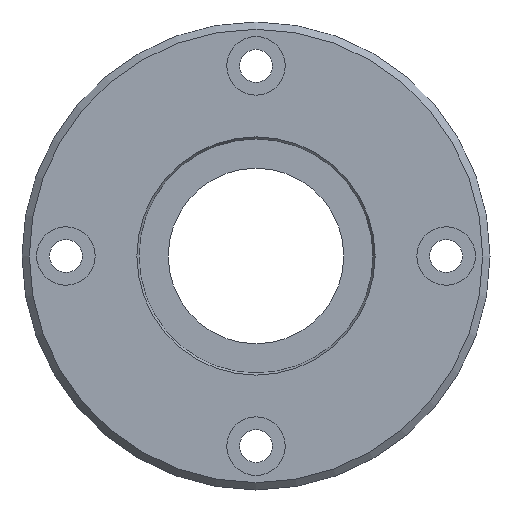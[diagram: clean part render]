
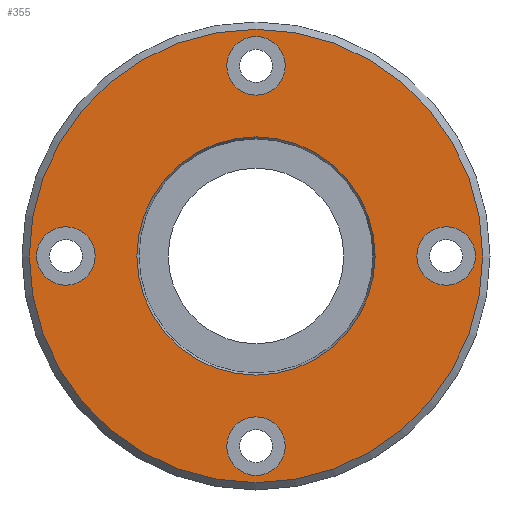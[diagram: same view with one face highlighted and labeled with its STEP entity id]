
A CAD part, left-side view. The second image highlights one B-rep face of the part: STEP entity #355.
In plain terms, the highlighted planar face has unit normal (-1, 0, 0).
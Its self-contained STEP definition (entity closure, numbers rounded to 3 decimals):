
#28=FACE_BOUND('',#81,.T.);
#29=FACE_BOUND('',#82,.T.);
#30=FACE_BOUND('',#83,.T.);
#31=FACE_BOUND('',#84,.T.);
#32=FACE_BOUND('',#85,.T.);
#45=PLANE('',#405);
#55=FACE_OUTER_BOUND('',#80,.T.);
#80=EDGE_LOOP('',(#263));
#81=EDGE_LOOP('',(#264));
#82=EDGE_LOOP('',(#265));
#83=EDGE_LOOP('',(#266));
#84=EDGE_LOOP('',(#267));
#85=EDGE_LOOP('',(#268));
#153=CIRCLE('',#403,31.);
#155=CIRCLE('',#406,16.289);
#156=CIRCLE('',#407,4.);
#157=CIRCLE('',#408,4.);
#158=CIRCLE('',#409,4.);
#159=CIRCLE('',#410,4.);
#183=VERTEX_POINT('',#587);
#185=VERTEX_POINT('',#593);
#186=VERTEX_POINT('',#595);
#187=VERTEX_POINT('',#597);
#188=VERTEX_POINT('',#599);
#189=VERTEX_POINT('',#601);
#213=EDGE_CURVE('',#183,#183,#153,.T.);
#216=EDGE_CURVE('',#185,#185,#155,.T.);
#217=EDGE_CURVE('',#186,#186,#156,.T.);
#218=EDGE_CURVE('',#187,#187,#157,.T.);
#219=EDGE_CURVE('',#188,#188,#158,.T.);
#220=EDGE_CURVE('',#189,#189,#159,.T.);
#263=ORIENTED_EDGE('',*,*,#213,.F.);
#264=ORIENTED_EDGE('',*,*,#216,.F.);
#265=ORIENTED_EDGE('',*,*,#217,.T.);
#266=ORIENTED_EDGE('',*,*,#218,.T.);
#267=ORIENTED_EDGE('',*,*,#219,.T.);
#268=ORIENTED_EDGE('',*,*,#220,.T.);
#355=ADVANCED_FACE('',(#55,#28,#29,#30,#31,#32),#45,.F.);
#403=AXIS2_PLACEMENT_3D('',#588,#461,#462);
#405=AXIS2_PLACEMENT_3D('',#592,#466,#467);
#406=AXIS2_PLACEMENT_3D('',#594,#468,#469);
#407=AXIS2_PLACEMENT_3D('',#596,#470,#471);
#408=AXIS2_PLACEMENT_3D('',#598,#472,#473);
#409=AXIS2_PLACEMENT_3D('',#600,#474,#475);
#410=AXIS2_PLACEMENT_3D('',#602,#476,#477);
#461=DIRECTION('center_axis',(1.,0.,0.));
#462=DIRECTION('ref_axis',(0.,-1.,0.));
#466=DIRECTION('center_axis',(1.,0.,0.));
#467=DIRECTION('ref_axis',(0.,0.,-1.));
#468=DIRECTION('center_axis',(-1.,0.,0.));
#469=DIRECTION('ref_axis',(0.,-1.,0.));
#470=DIRECTION('center_axis',(1.,0.,0.));
#471=DIRECTION('ref_axis',(0.,0.,1.));
#472=DIRECTION('center_axis',(1.,0.,0.));
#473=DIRECTION('ref_axis',(0.,0.,1.));
#474=DIRECTION('center_axis',(1.,0.,0.));
#475=DIRECTION('ref_axis',(0.,0.,1.));
#476=DIRECTION('center_axis',(1.,0.,0.));
#477=DIRECTION('ref_axis',(0.,0.,1.));
#587=CARTESIAN_POINT('',(-9.,31.,0.));
#588=CARTESIAN_POINT('Origin',(-9.,0.,0.));
#592=CARTESIAN_POINT('Origin',(-9.,0.,0.));
#593=CARTESIAN_POINT('',(-9.,16.289,0.));
#594=CARTESIAN_POINT('Origin',(-9.,0.,0.));
#595=CARTESIAN_POINT('',(-9.,0.,-30.));
#596=CARTESIAN_POINT('Origin',(-9.,0.,-26.));
#597=CARTESIAN_POINT('',(-9.,0.,22.));
#598=CARTESIAN_POINT('Origin',(-9.,0.,26.));
#599=CARTESIAN_POINT('',(-9.,26.,-4.));
#600=CARTESIAN_POINT('Origin',(-9.,26.,0.));
#601=CARTESIAN_POINT('',(-9.,-26.,-4.));
#602=CARTESIAN_POINT('Origin',(-9.,-26.,0.));
